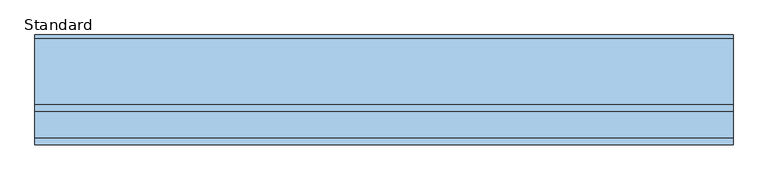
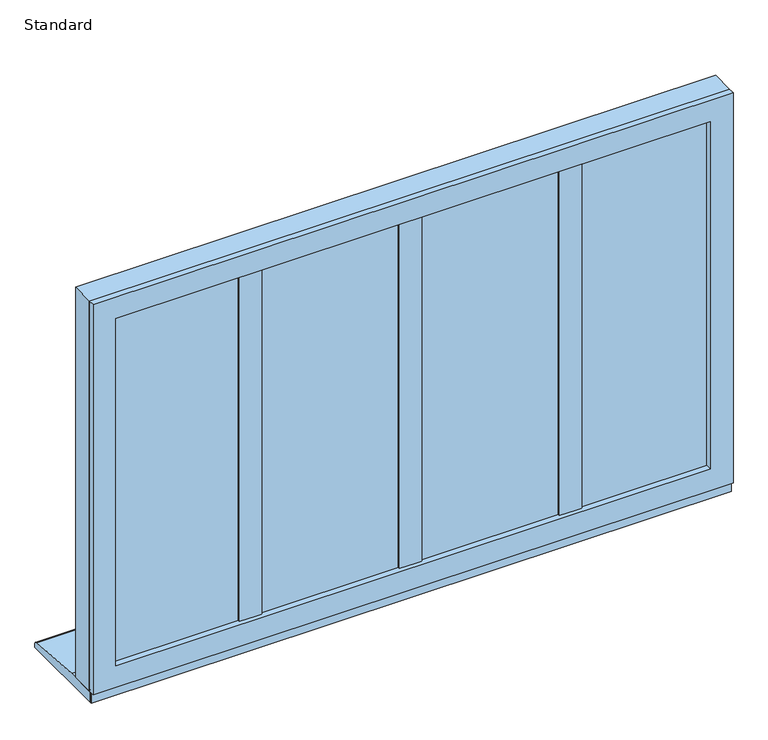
"""IFC4 building model written with IfcOpenShell, lengths in millimetres: window geometry, SMARTS_Alitherm600 : Standard."""

import ifcopenshell
import ifcopenshell.guid

model = None  # the IFC model being written
_history = None  # IfcOwnerHistory: only IFC2X3 demands one
_inside = {}  # id of a spatial element -> (the spatial element, [elements in it])
_under = {}  # id of a project, library or spatial element -> (it, [spatial elements below it])
_declared = {}  # id of a project -> (the project, [libraries it declares])
_typed = {}  # id of a type object -> (the type object, [elements of that type])
_made_of = {}  # id of a material, layer set ... -> (it, [elements and type objects made of it])


def new_model(schema):
    """Start an empty IFC model of exactly this schema.

    Asked for "IFC4X3", IfcOpenShell would pick the latest addendum, in which some entities
    have other attributes; the version numbers below select the first issue.
    IFC2X3 requires an IfcOwnerHistory on every rooted entity: one is made here for all.
    """
    global model, _history
    if schema == "IFC4X3":
        model = ifcopenshell.file(schema_version=(4, 3, 0, 0))
    else:
        model = ifcopenshell.file(schema=schema)
    _inside.clear()
    _under.clear()
    _declared.clear()
    _typed.clear()
    _made_of.clear()
    _history = None
    if model.schema == "IFC2X3":
        org = make("IfcOrganization", Name="unknown")
        user = make(
            "IfcPersonAndOrganization",
            ThePerson=make("IfcPerson", FamilyName="unknown"),
            TheOrganization=org,
        )
        app = make(
            "IfcApplication",
            ApplicationDeveloper=org,
            Version="unknown",
            ApplicationFullName="unknown",
            ApplicationIdentifier="unknown",
        )
        _history = make(
            "IfcOwnerHistory",
            OwningUser=user,
            OwningApplication=app,
            ChangeAction="ADDED",
            CreationDate=0,
        )
    return model


def make(cls, **values):
    """One entity of the class cls with the attributes given. An attribute that is None is left unset."""
    return model.create_entity(
        cls, **{name: value for name, value in values.items() if value is not None}
    )


def rooted(cls, **values):
    """An entity with a GlobalId (a new one), such as an element, a storey or a relation."""
    return make(cls, GlobalId=ifcopenshell.guid.new(), OwnerHistory=_history, **values)


def si_unit(unit_type, name, prefix=None):
    """IfcSIUnit, for example si_unit("LENGTHUNIT", "METRE", prefix="MILLI")."""
    return make("IfcSIUnit", UnitType=unit_type, Prefix=prefix, Name=name)


def assignment(units):
    """IfcUnitAssignment: the units of a project."""
    return None if units is None else make("IfcUnitAssignment", Units=units)


def point(xyz):
    """IfcCartesianPoint."""
    return None if xyz is None else make("IfcCartesianPoint", Coordinates=xyz)


def direction(xyz):
    """IfcDirection."""
    return None if xyz is None else make("IfcDirection", DirectionRatios=xyz)


def frame(location, z_axis=None, x_axis=None):
    """IfcAxis2Placement3D, a coordinate frame: its origin and axes. An axis left out is left unset."""
    return make(
        "IfcAxis2Placement3D",
        Location=point(location),
        Axis=direction(z_axis),
        RefDirection=direction(x_axis),
    )


def frame_2d(location, x_axis=None):
    """IfcAxis2Placement2D, a coordinate frame in the plane: its origin and x axis."""
    return make(
        "IfcAxis2Placement2D", Location=point(location), RefDirection=direction(x_axis)
    )


def origin():
    """The frame at (0, 0, 0) with its axes left unset."""
    return frame((0.0, 0.0, 0.0))


def place(relative_to, where):
    """IfcLocalPlacement: puts the frame where relative to a parent placement (None: the world)."""
    return make(
        "IfcLocalPlacement", PlacementRelTo=relative_to, RelativePlacement=where
    )


def context(
    kind, dimensions, precision=None, world=None, true_north=None, identifier=None
):
    """IfcGeometricRepresentationContext, for example the 3D "Model" context."""
    return make(
        "IfcGeometricRepresentationContext",
        ContextIdentifier=identifier,
        ContextType=kind,
        CoordinateSpaceDimension=dimensions,
        Precision=precision,
        WorldCoordinateSystem=world,
        TrueNorth=true_north,
    )


def project(units=None, contexts=None):
    """IfcProject with its units and contexts."""
    return rooted(
        "IfcProject",
        Name="project",
        RepresentationContexts=contexts,
        UnitsInContext=assignment(units),
    )


def spatial(cls, under=None, at=None, **own):
    """A site, building, storey or space (cls), placed at a placement, below another one or the project."""
    s = rooted(cls, ObjectPlacement=at, **own)
    if under is not None:
        _under.setdefault(under.id(), (under, []))[1].append(s)
    return s


def polyline(points):
    """IfcPolyline through the points."""
    return make("IfcPolyline", Points=[point(p) for p in points])


def circle_curve(where, radius):
    """IfcCircle in the frame where."""
    return make("IfcCircle", Position=where, Radius=radius)


def trimmed(basis, trim1, trim2, sense, master):
    """IfcTrimmedCurve: the piece of a basis curve between two trims."""
    return make(
        "IfcTrimmedCurve",
        BasisCurve=basis,
        Trim1=trim1,
        Trim2=trim2,
        SenseAgreement=sense,
        MasterRepresentation=master,
    )


def segment(curve, same_sense, transition):
    """IfcCompositeCurveSegment."""
    return make(
        "IfcCompositeCurveSegment",
        Transition=transition,
        SameSense=same_sense,
        ParentCurve=curve,
    )


def composite_curve(segments, self_intersect=None):
    """IfcCompositeCurve: segments joined end to end."""
    return make("IfcCompositeCurve", Segments=segments, SelfIntersect=self_intersect)


def outline(outer, holes=None, kind="AREA"):
    """IfcArbitraryClosedProfileDef: a profile drawn as a closed curve; with holes, ...WithVoids."""
    if holes is None:
        return make("IfcArbitraryClosedProfileDef", ProfileType=kind, OuterCurve=outer)
    return make(
        "IfcArbitraryProfileDefWithVoids",
        ProfileType=kind,
        OuterCurve=outer,
        InnerCurves=holes,
    )


def extrude(swept, where, along, depth):
    """IfcExtrudedAreaSolid: the profile swept, set in the frame where, extruded along a direction by depth."""
    return make(
        "IfcExtrudedAreaSolid",
        SweptArea=swept,
        Position=where,
        ExtrudedDirection=direction(along),
        Depth=depth,
    )


def faces_of(points, faces, orient=None, outer=None):
    """IfcFace entities. A face is a list of loops; a loop is a list of indices into points, from 0.

    orient and outer hold one flag for each loop. By default every Orientation is true, the
    first loop of a face is its IfcFaceOuterBound and the others are IfcFaceBound.
    """
    made = []
    for i, loops in enumerate(faces):
        bounds = []
        for j, loop in enumerate(loops):
            is_outer = j == 0 if outer is None else outer[i][j]
            bounds.append(
                make(
                    "IfcFaceOuterBound" if is_outer else "IfcFaceBound",
                    Bound=make("IfcPolyLoop", Polygon=[points[k] for k in loop]),
                    Orientation=True if orient is None else orient[i][j],
                )
            )
        made.append(make("IfcFace", Bounds=bounds))
    return made


def faceted_brep(points, faces, orient=None, outer=None, voids=None):
    """IfcFacetedBrep: a solid bounded by flat faces; with voids (closed shells), ...WithVoids."""
    shared = [point(p) for p in points]
    hull = make("IfcClosedShell", CfsFaces=faces_of(shared, faces, orient, outer))
    if voids is None:
        return make("IfcFacetedBrep", Outer=hull)
    return make(
        "IfcFacetedBrepWithVoids",
        Outer=hull,
        Voids=[
            make(cls, CfsFaces=faces_of(shared, fs, o, b)) for cls, fs, o, b in voids
        ],
    )


def shape(context_of_items, identifier, shape_type, items):
    """IfcShapeRepresentation: the items that make up one representation, for example the "Body"."""
    return make(
        "IfcShapeRepresentation",
        ContextOfItems=context_of_items,
        RepresentationIdentifier=identifier,
        RepresentationType=shape_type,
        Items=items,
    )


def source(mapping_origin, context_of_items, identifier, shape_type, items):
    """IfcRepresentationMap: a shape defined once, which mapped items show again and again."""
    return make(
        "IfcRepresentationMap",
        MappingOrigin=mapping_origin,
        MappedRepresentation=shape(context_of_items, identifier, shape_type, items),
    )


def transform(
    local_origin,
    x_axis=None,
    y_axis=None,
    z_axis=None,
    scale=None,
    scale2=None,
    scale3=None,
    uniform=True,
):
    """IfcCartesianTransformationOperator3D, or its non-uniform kind. x_axis, y_axis, z_axis: its Axis1, 2, 3."""
    if uniform:
        return make(
            "IfcCartesianTransformationOperator3D",
            Axis1=direction(x_axis),
            Axis2=direction(y_axis),
            LocalOrigin=point(local_origin),
            Scale=scale,
            Axis3=direction(z_axis),
        )
    return make(
        "IfcCartesianTransformationOperator3DnonUniform",
        Axis1=direction(x_axis),
        Axis2=direction(y_axis),
        LocalOrigin=point(local_origin),
        Scale=scale,
        Axis3=direction(z_axis),
        Scale2=scale2,
        Scale3=scale3,
    )


def mapped(mapping_source, mapping_target):
    """IfcMappedItem: shows the shape of a source again, moved by a transform."""
    return make(
        "IfcMappedItem", MappingSource=mapping_source, MappingTarget=mapping_target
    )


def made_of(thing, what):
    """Note that an element or type object is made of a material, layer set ...; save() writes the relation."""
    if what is not None:
        _made_of.setdefault(what.id(), (what, []))[1].append(thing)
    return thing


def element(
    cls,
    number,
    at=None,
    inside=None,
    cuts=None,
    type_object=None,
    material=None,
    context=None,
    identifier="Body",
    shape_type=None,
    held_by="IfcProductDefinitionShape",
    body=None,
    shapes=None,
    **own,
):
    """One element of the class cls, such as IfcWall. Its Tag is "e" and its number.

    at: its placement. inside: the storey or other place that contains it. cuts: it is an
    opening in that element (IfcRelVoidsElement). A single representation is given by context,
    identifier, shape_type and body (its items); several are given by shapes. held_by: the class
    of the entity that holds the representations. save() writes the other relations.
    """
    e = rooted(cls, Tag="e%d" % number, ObjectPlacement=at, **own)
    if body is not None:
        shapes = [shape(context, identifier, shape_type, body)]
    if shapes is not None:
        e.Representation = make(held_by, Representations=shapes)
    if inside is not None:
        _inside.setdefault(inside.id(), (inside, []))[1].append(e)
    if cuts is not None:
        rooted(
            "IfcRelVoidsElement", RelatingBuildingElement=cuts, RelatedOpeningElement=e
        )
    if type_object is not None:
        _typed.setdefault(type_object.id(), (type_object, []))[1].append(e)
    return made_of(e, material)


def aggregate(whole, parts):
    """IfcRelAggregates: a whole, such as a stair, and the parts it consists of."""
    return rooted("IfcRelAggregates", RelatingObject=whole, RelatedObjects=parts)


def save(model, path):
    """Write the relations noted so far, then the file.

    IfcRelAggregates (storeys below a building ...), IfcRelContainedInSpatialStructure (elements
    in a storey), IfcRelDefinesByType, IfcRelAssociatesMaterial and IfcRelDeclares: one each for
    every whole, place, type object, material and project.
    """
    for whole, parts in _under.values():
        aggregate(whole, parts)
    for where, things in _inside.values():
        rooted(
            "IfcRelContainedInSpatialStructure",
            RelatedElements=things,
            RelatingStructure=where,
        )
    for kind, things in _typed.values():
        rooted("IfcRelDefinesByType", RelatedObjects=things, RelatingType=kind)
    for what, things in _made_of.values():
        rooted("IfcRelAssociatesMaterial", RelatedObjects=things, RelatingMaterial=what)
    for by, libraries in _declared.values():
        rooted("IfcRelDeclares", RelatingContext=by, RelatedDefinitions=libraries)
    model.write(path)


def standard_a1e7b956(model_context):
    return source(origin(), model_context, "Body", "SolidModel", [
        extrude(outline(polyline([(-379.4, 102.8298432), (-360.6, 102.8298432), (-360.6, 47.2458572), (-379.4, 47.2458572), (-379.4, 102.8298432)])), frame((0.0, 0.0, 670.8979117), z_axis=(0.0, 0.0, 1.0), x_axis=(1.0, 0.0, 0.0)), (0.0, 0.0, 1.0), 883.2041766),
        extrude(outline(polyline([(-395.9020883, 47.2458572), (-344.0979117, 47.2458572), (-344.0979117, 43.2798432), (-395.9020883, 43.2798432), (-395.9020883, 47.2458572)])), frame((0.0, 0.0, 687.4), z_axis=(0.0, 0.0, 1.0), x_axis=(1.0, 0.0, 0.0)), (0.0, 0.0, 1.0), 850.2),
        extrude(outline(polyline([(-9.4, 102.8298432), (9.4, 102.8298432), (9.4, 47.2458572), (-9.4, 47.2458572), (-9.4, 102.8298432)])), frame((0.0, 0.0, 670.8979117), z_axis=(0.0, 0.0, 1.0), x_axis=(1.0, 0.0, 0.0)), (0.0, 0.0, 1.0), 883.2041766),
        extrude(outline(polyline([(-25.9020883, 47.2458572), (25.9020883, 47.2458572), (25.9020883, 43.2798432), (-25.9020883, 43.2798432), (-25.9020883, 47.2458572)])), frame((0.0, 0.0, 687.4), z_axis=(0.0, 0.0, 1.0), x_axis=(1.0, 0.0, 0.0)), (0.0, 0.0, 1.0), 850.2),
        extrude(outline(polyline([(360.6, 102.8298432), (379.4, 102.8298432), (379.4, 47.2458572), (360.6, 47.2458572), (360.6, 102.8298432)])), frame((0.0, 0.0, 670.8979117), z_axis=(0.0, 0.0, 1.0), x_axis=(1.0, 0.0, 0.0)), (0.0, 0.0, 1.0), 883.2041766),
        extrude(outline(polyline([(344.0979117, 47.2458572), (395.9020883, 47.2458572), (395.9020883, 43.2798432), (344.0979117, 43.2798432), (344.0979117, 47.2458572)])), frame((0.0, 0.0, 687.4), z_axis=(0.0, 0.0, 1.0), x_axis=(1.0, 0.0, 0.0)), (0.0, 0.0, 1.0), 850.2),
        extrude(outline(polyline([(-702.6, 77.7798432), (-381.0, 77.7798432), (-381.0, 73.7798432), (-702.6, 73.7798432), (-702.6, 77.7798432)])), frame((0.0, 0.0, 672.4), z_axis=(0.0, 0.0, 1.0), x_axis=(1.0, 0.0, 0.0)), (0.0, 0.0, 1.0), 880.2),
        extrude(outline(polyline([(-702.6, 57.7798432), (-381.0, 57.7798432), (-381.0, 53.7798432), (-702.6, 53.7798432), (-702.6, 57.7798432)])), frame((0.0, 0.0, 672.4), z_axis=(0.0, 0.0, 1.0), x_axis=(1.0, 0.0, 0.0)), (0.0, 0.0, 1.0), 880.2),
        extrude(outline(polyline([(1552.6, -702.6), (672.4, -702.6), (672.4, -381.0), (1552.6, -381.0), (1552.6, -702.6)]), holes=[polyline([(1542.6, -391.0), (682.4, -391.0), (682.4, -692.6), (1542.6, -692.6), (1542.6, -391.0)])]), frame((0.0, 57.7798432, 0.0), z_axis=(0.0, 1.0, 0.0), x_axis=(0.0, 0.0, 1.0)), (0.0, 0.0, 1.0), 16.0),
        faceted_brep([(-699.4160653, 102.7798432, 1549.4160653), (-687.2339746, 81.6798432, 1537.2339746), (-687.2339746, 81.6798432, 687.7660254), (-699.4160653, 102.7798432, 675.5839347), (-396.3660254, 81.6798432, 687.7660254), (-384.1839347, 102.7798432, 675.5839347), (-396.3660254, 81.6798432, 1537.2339746), (-384.1839347, 102.7798432, 1549.4160653), (-379.5, 81.6798432, 1554.1), (-379.5, 102.7798432, 1554.1), (-704.1, 102.7798432, 1554.1), (-704.1, 81.6798432, 1554.1), (-704.1, 102.7798432, 670.9), (-704.1, 81.6798432, 670.9), (-379.5, 102.7798432, 670.9), (-379.5, 81.6798432, 670.9)], [[[0, 1, 2, 3]], [[3, 2, 4, 5]], [[5, 4, 6, 7]], [[7, 6, 1, 0]], [[8, 9, 10, 11]], [[11, 10, 12, 13]], [[13, 12, 14, 15]], [[9, 14, 12, 10], [0, 3, 5, 7]], [[15, 14, 9, 8]], [[11, 13, 15, 8], [6, 4, 2, 1]]]),
        extrude(outline(polyline([(-359.0, 77.7798432), (-11.0, 77.7798432), (-11.0, 73.7798432), (-359.0, 73.7798432), (-359.0, 77.7798432)])), frame((0.0, 0.0, 672.4), z_axis=(0.0, 0.0, 1.0), x_axis=(1.0, 0.0, 0.0)), (0.0, 0.0, 1.0), 880.2),
        extrude(outline(polyline([(-359.0, 57.7798432), (-11.0, 57.7798432), (-11.0, 53.7798432), (-359.0, 53.7798432), (-359.0, 57.7798432)])), frame((0.0, 0.0, 672.4), z_axis=(0.0, 0.0, 1.0), x_axis=(1.0, 0.0, 0.0)), (0.0, 0.0, 1.0), 880.2),
        extrude(outline(polyline([(1552.6, -359.0), (672.4, -359.0), (672.4, -11.0), (1552.6, -11.0), (1552.6, -359.0)]), holes=[polyline([(1542.6, -21.0), (682.4, -21.0), (682.4, -349.0), (1542.6, -349.0), (1542.6, -21.0)])]), frame((0.0, 57.7798432, 0.0), z_axis=(0.0, 1.0, 0.0), x_axis=(0.0, 0.0, 1.0)), (0.0, 0.0, 1.0), 16.0),
        faceted_brep([(-355.8160653, 102.7798432, 1549.4160653), (-343.6339746, 81.6798432, 1537.2339746), (-343.6339746, 81.6798432, 687.7660254), (-355.8160653, 102.7798432, 675.5839347), (-26.3660254, 81.6798432, 687.7660254), (-14.1839347, 102.7798432, 675.5839347), (-26.3660254, 81.6798432, 1537.2339746), (-14.1839347, 102.7798432, 1549.4160653), (-9.5, 81.6798432, 1554.1), (-9.5, 102.7798432, 1554.1), (-360.5, 102.7798432, 1554.1), (-360.5, 81.6798432, 1554.1), (-360.5, 102.7798432, 670.9), (-360.5, 81.6798432, 670.9), (-9.5, 102.7798432, 670.9), (-9.5, 81.6798432, 670.9)], [[[0, 1, 2, 3]], [[3, 2, 4, 5]], [[5, 4, 6, 7]], [[7, 6, 1, 0]], [[8, 9, 10, 11]], [[11, 10, 12, 13]], [[13, 12, 14, 15]], [[9, 14, 12, 10], [0, 3, 5, 7]], [[15, 14, 9, 8]], [[11, 13, 15, 8], [6, 4, 2, 1]]]),
        extrude(outline(polyline([(11.0, 77.7798432), (359.0, 77.7798432), (359.0, 73.7798432), (11.0, 73.7798432), (11.0, 77.7798432)])), frame((0.0, 0.0, 672.4), z_axis=(0.0, 0.0, 1.0), x_axis=(1.0, 0.0, 0.0)), (0.0, 0.0, 1.0), 880.2),
        extrude(outline(polyline([(11.0, 57.7798432), (359.0, 57.7798432), (359.0, 53.7798432), (11.0, 53.7798432), (11.0, 57.7798432)])), frame((0.0, 0.0, 672.4), z_axis=(0.0, 0.0, 1.0), x_axis=(1.0, 0.0, 0.0)), (0.0, 0.0, 1.0), 880.2),
        extrude(outline(polyline([(1552.6, 11.0), (672.4, 11.0), (672.4, 359.0), (1552.6, 359.0), (1552.6, 11.0)]), holes=[polyline([(1542.6, 349.0), (682.4, 349.0), (682.4, 21.0), (1542.6, 21.0), (1542.6, 349.0)])]), frame((0.0, 57.7798432, 0.0), z_axis=(0.0, 1.0, 0.0), x_axis=(0.0, 0.0, 1.0)), (0.0, 0.0, 1.0), 16.0),
        faceted_brep([(14.1839347, 102.7798432, 1549.4160653), (26.3660254, 81.6798432, 1537.2339746), (26.3660254, 81.6798432, 687.7660254), (14.1839347, 102.7798432, 675.5839347), (343.6339746, 81.6798432, 687.7660254), (355.8160653, 102.7798432, 675.5839347), (343.6339746, 81.6798432, 1537.2339746), (355.8160653, 102.7798432, 1549.4160653), (360.5, 81.6798432, 1554.1), (360.5, 102.7798432, 1554.1), (9.5, 102.7798432, 1554.1), (9.5, 81.6798432, 1554.1), (9.5, 102.7798432, 670.9), (9.5, 81.6798432, 670.9), (360.5, 102.7798432, 670.9), (360.5, 81.6798432, 670.9)], [[[0, 1, 2, 3]], [[3, 2, 4, 5]], [[5, 4, 6, 7]], [[7, 6, 1, 0]], [[8, 9, 10, 11]], [[11, 10, 12, 13]], [[13, 12, 14, 15]], [[9, 14, 12, 10], [0, 3, 5, 7]], [[15, 14, 9, 8]], [[11, 13, 15, 8], [6, 4, 2, 1]]]),
        extrude(outline(polyline([(1590.0, 740.0), (1590.0, -740.0), (635.0, -740.0), (635.0, 740.0), (1590.0, 740.0)]), holes=[polyline([(670.85, 704.15), (670.85, -704.15), (1554.15, -704.15), (1554.15, 704.15), (670.85, 704.15)])]), frame((0.0, 47.2798427, 0.0), z_axis=(0.0, 1.0, 0.0), x_axis=(0.0, 0.0, 1.0)), (0.0, 0.0, 1.0), 55.5500006),
        extrude(outline(polyline([(1590.0, 740.0), (1590.0, -740.0), (635.0, -740.0), (635.0, 740.0), (1590.0, 740.0)]), holes=[polyline([(687.35, 687.65), (687.35, -687.65), (1537.65, -687.65), (1537.65, 687.65), (687.35, 687.65)])]), frame((0.0, 32.8298432, 0.0), z_axis=(0.0, 1.0, 0.0), x_axis=(0.0, 0.0, 1.0)), (0.0, 0.0, 1.0), 14.4499994),
        extrude(outline(polyline([(381.0, 77.7798432), (702.6, 77.7798432), (702.6, 73.7798432), (381.0, 73.7798432), (381.0, 77.7798432)])), frame((0.0, 0.0, 672.4), z_axis=(0.0, 0.0, 1.0), x_axis=(1.0, 0.0, 0.0)), (0.0, 0.0, 1.0), 880.2),
        extrude(outline(polyline([(381.0, 57.7798432), (702.6, 57.7798432), (702.6, 53.7798432), (381.0, 53.7798432), (381.0, 57.7798432)])), frame((0.0, 0.0, 672.4), z_axis=(0.0, 0.0, 1.0), x_axis=(1.0, 0.0, 0.0)), (0.0, 0.0, 1.0), 880.2),
        extrude(outline(polyline([(1552.6, 381.0), (672.4, 381.0), (672.4, 702.6), (1552.6, 702.6), (1552.6, 381.0)]), holes=[polyline([(1542.6, 692.6), (682.4, 692.6), (682.4, 391.0), (1542.6, 391.0), (1542.6, 692.6)])]), frame((0.0, 57.7798432, 0.0), z_axis=(0.0, 1.0, 0.0), x_axis=(0.0, 0.0, 1.0)), (0.0, 0.0, 1.0), 16.0),
        faceted_brep([(384.1839347, 102.7798432, 1549.4160653), (396.3660254, 81.6798432, 1537.2339746), (396.3660254, 81.6798432, 687.7660254), (384.1839347, 102.7798432, 675.5839347), (687.2339746, 81.6798432, 687.7660254), (699.4160653, 102.7798432, 675.5839347), (687.2339746, 81.6798432, 1537.2339746), (699.4160653, 102.7798432, 1549.4160653), (704.1, 81.6798432, 1554.1), (704.1, 102.7798432, 1554.1), (379.5, 102.7798432, 1554.1), (379.5, 81.6798432, 1554.1), (379.5, 102.7798432, 670.9), (379.5, 81.6798432, 670.9), (704.1, 102.7798432, 670.9), (704.1, 81.6798432, 670.9)], [[[0, 1, 2, 3]], [[3, 2, 4, 5]], [[5, 4, 6, 7]], [[7, 6, 1, 0]], [[8, 9, 10, 11]], [[11, 10, 12, 13]], [[13, 12, 14, 15]], [[9, 14, 12, 10], [0, 3, 5, 7]], [[15, 14, 9, 8]], [[11, 13, 15, 8], [6, 4, 2, 1]]]),
        extrude(outline(polyline([(740.0, 43.2798432), (740.0, 40.7798432), (-740.0, 40.7798432), (-740.0, 43.2798432), (740.0, 43.2798432)])), frame((0.0, 0.0, 610.0), z_axis=(0.0, 0.0, 1.0), x_axis=(1.0, 0.0, 0.0)), (0.0, 0.0, 1.0), 31.0),
        extrude(outline(composite_curve([segment(polyline([(265.7798432, 610.0), (43.2798432, 610.0), (43.2798432, 635.0), (118.7798432, 635.0), (258.4770891, 625.9276664)]), True, "CONTINUOUS"), segment(trimmed(circle_curve(frame_2d((257.7798432, 617.9581088)), 8.0), [point((258.4770891, 625.9276664))], [point((265.7798432, 617.9581088))], False, "CARTESIAN"), True, "CONTINUOUS"), segment(polyline([(265.7798432, 617.9581088), (265.7798432, 610.0)]), True, "CONTINUOUS")], self_intersect=False)), frame((-740.0, 0.0, 0.0), z_axis=(1.0, 0.0, 0.0), x_axis=(0.0, 1.0, 0.0)), (0.0, 0.0, 1.0), 1480.0),
    ])


if __name__ == "__main__":
    model = new_model("IFC4")
    model_context = context("Model", 3, world=origin())
    ifc_project = project(units=[si_unit("LENGTHUNIT", "METRE", prefix="MILLI")], contexts=[model_context])
    site = spatial("IfcSite", under=ifc_project)
    building = spatial("IfcBuilding", under=site)
    placement = place(None, origin())
    standard_shape = standard_a1e7b956(model_context)
    element("IfcWindow", 1, ObjectType="SMARTS_Alitherm600 : Standard", at=placement, inside=building, context=model_context, shape_type="MappedRepresentation", body=[
        mapped(standard_shape, transform((0.0, 0.0, 0.0), x_axis=(1.0, 0.0, 0.0), y_axis=(0.0, 1.0, 0.0), z_axis=(0.0, 0.0, 1.0))),
    ])
    save(model, "model.ifc")
